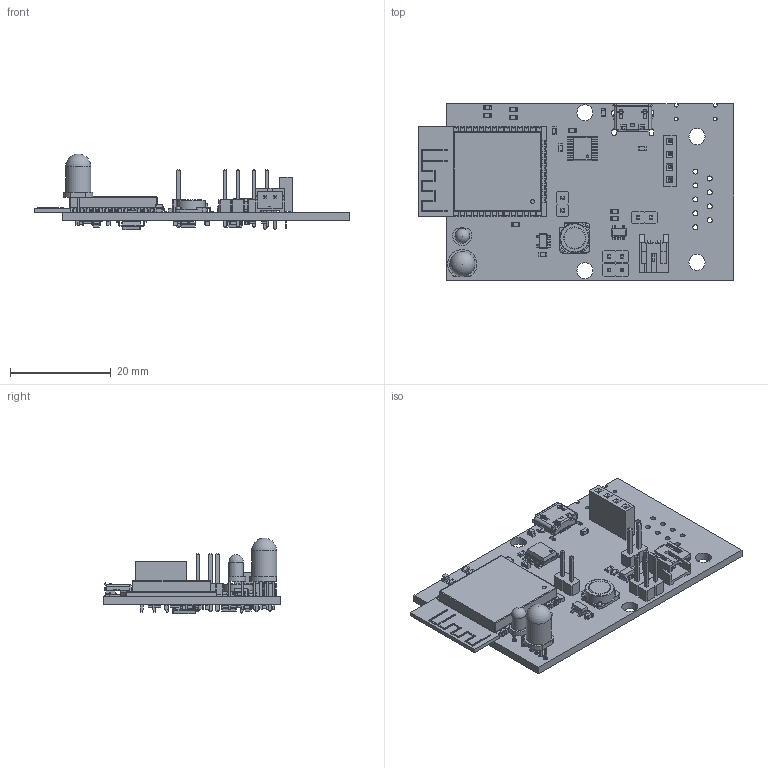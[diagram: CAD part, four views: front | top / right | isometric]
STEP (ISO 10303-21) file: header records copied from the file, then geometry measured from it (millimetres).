
FILE_DESCRIPTION(('KiCad electronic assembly'),'2;1');
FILE_NAME('MainBoard.step','2019-01-06T12:18:52',('An Author'),( 'A Company'),'Open CASCADE STEP processor 6.8', 'KiCad to STEP converter','Unknown');
FILE_SCHEMA(('AUTOMOTIVE_DESIGN_CC2 { 1 2 10303 214 -1 1 5 4 }'));
Length unit declared in the file: millimetre
Products named in the file (34): Open CASCADE STEP translator 6.8 1; PinSocket_1x04_P2.54mm_Vertical; SOLID; R_0603_1608Metric; L_TDK_SLF6025; LED_0603_1608Metric; PinHeader_1x02_P2.54mm_Vertical; D_0603_1608Metric; C_0603_1608Metric; JST_PH_S2B-PH-K_1x02_P2.00mm_Horizontal; USB_Micro-B_Molex_47346-0001; LED_D3.0mm_IRBlack; LED_D5.0mm-4_RGB; SOIC-8_3.9x4.9mm_P1.27mm; SSOP-16_3.9x4.9mm_P0.635mm; SOT-23; SOT-23-5; ESP32-WROOM-32; COMPOUND
Assembly tree (68 placements, depth 3):
  Open CASCADE STEP translator 6.8 1
    PinSocket_1x04_P2.54mm_Vertical
      SOLID
    R_0603_1608Metric  x17
      SOLID
    L_TDK_SLF6025
      SOLID
    LED_0603_1608Metric  x2
      SOLID
    PinHeader_1x02_P2.54mm_Vertical  x4
      SOLID
    D_0603_1608Metric  x2
      SOLID
    C_0603_1608Metric  x12
      SOLID
    JST_PH_S2B-PH-K_1x02_P2.00mm_Horizontal
      SOLID
    USB_Micro-B_Molex_47346-0001
      SOLID
    LED_D3.0mm_IRBlack
      SOLID
    LED_D5.0mm-4_RGB
      SOLID
    SOIC-8_3.9x4.9mm_P1.27mm
      SOLID
    SSOP-16_3.9x4.9mm_P0.635mm
      SOLID
    SOT-23  x3
      SOLID
    SOT-23-5  x2
      SOLID
    ESP32-WROOM-32
      SOLID
    COMPOUND
Bounding box: 62.73 x 35.05 x 15.05 mm (x, y, z)
Volume: 4958.3 mm3; surface area: 7783 mm2
Topology: 52 solids, 53 shells, 3690 faces, 9734 edges, 6191 vertices
Faces by surface type: plane 2697, cylinder 779, bspline 199, sphere 12, torus 3
Full cylindrical faces by diameter (mm): 0.5 x1, 0.6 x1, 0.75 x2, 0.8 x4, 0.9 x6, 1 x21, 2.9 x1, 3.2 x4, 5 x1, 5.8 x1
Entity records: 216388 total; most frequent: CARTESIAN_POINT 69474, DIRECTION 23356, LINE 15144, VECTOR 15144, ORIENTED_EDGE 13196, PCURVE 13196, DEFINITIONAL_REPRESENTATION 13196, EDGE_CURVE 6598
